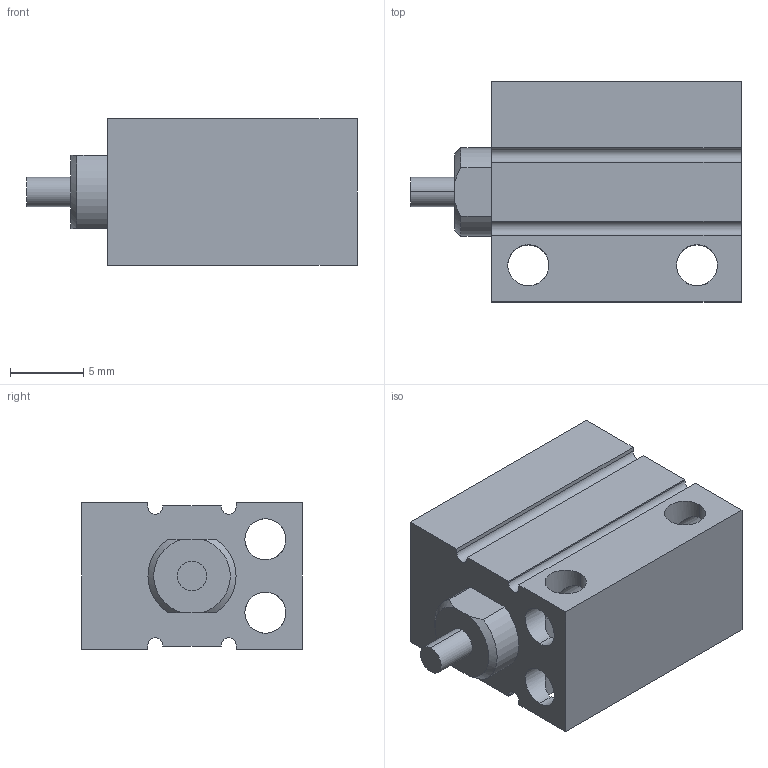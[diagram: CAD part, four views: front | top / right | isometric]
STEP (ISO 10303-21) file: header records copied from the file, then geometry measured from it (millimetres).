
FILE_DESCRIPTION (( 'STEP AP203' ), '1' );
FILE_NAME ('CLJB4-4.STEP', '2020-07-30T18:40:00', ( '' ), ( '' ), 'SwSTEP 2.0', 'SolidWorks 2019', '' );
FILE_SCHEMA (( 'CONFIG_CONTROL_DESIGN' ));
Length unit declared in the file: millimetre
Products named in the file (1): CLJB4-4
Bounding box: 22.5 x 15 x 10 mm (x, y, z)
Volume: 2201.4 mm3; surface area: 1855 mm2
Topology: 2 solids, 2 shells, 80 faces, 208 edges, 126 vertices
Faces by surface type: cylinder 44, plane 26, cone 10
Entity records: 2501 total; most frequent: CARTESIAN_POINT 519, ORIENTED_EDGE 408, DIRECTION 392, EDGE_CURVE 204, AXIS2_PLACEMENT_3D 143, VERTEX_POINT 126, LINE 106, VECTOR 106
